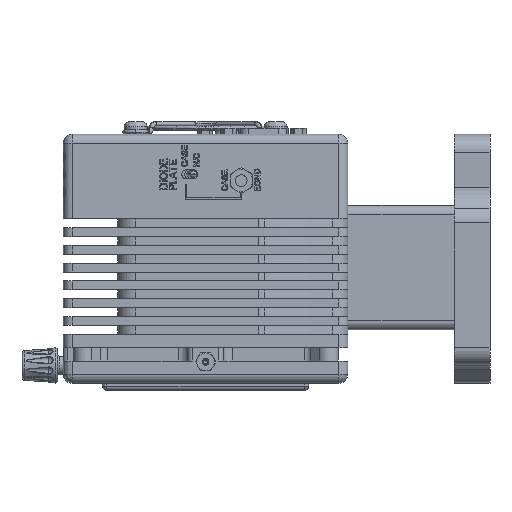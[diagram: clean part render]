
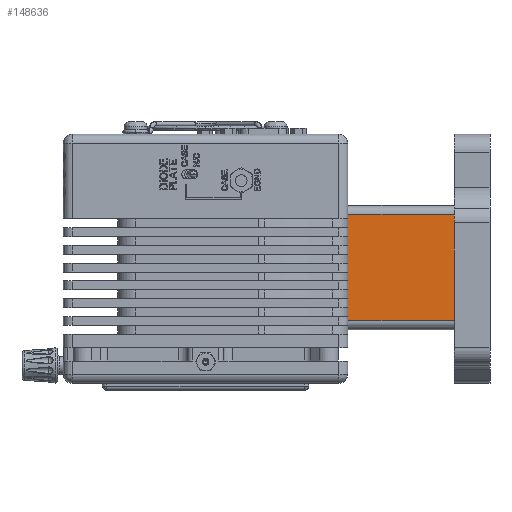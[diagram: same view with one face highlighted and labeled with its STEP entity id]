
A CAD part, left-side view. The second image highlights one B-rep face of the part: STEP entity #148636.
In plain terms, the highlighted planar face has unit normal (-1, 0, 0).
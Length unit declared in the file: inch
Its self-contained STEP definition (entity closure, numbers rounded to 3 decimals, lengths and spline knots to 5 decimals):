
#1355 = CARTESIAN_POINT ( 'NONE',  ( -0.5, -2., 0.875 ) ) ;
#5395 = CARTESIAN_POINT ( 'NONE',  ( -0.5, -3.5, 0.875 ) ) ;
#20813 = DIRECTION ( 'NONE',  ( 0., 0., -1. ) ) ;
#23393 = DIRECTION ( 'NONE',  ( 0., 0., -1. ) ) ;
#24539 = CARTESIAN_POINT ( 'NONE',  ( -0.5, -2., -0.625 ) ) ;
#24705 = VECTOR ( 'NONE', #177935, 39.37008 ) ;
#29438 = LINE ( 'NONE', #70222, #24705 ) ;
#32770 = PLANE ( 'NONE',  #58950 ) ;
#41721 = ORIENTED_EDGE ( 'NONE', *, *, #119735, .T. ) ;
#52216 = CARTESIAN_POINT ( 'NONE',  ( -0.5, -3.5, -0.625 ) ) ;
#53224 = ORIENTED_EDGE ( 'NONE', *, *, #72893, .F. ) ;
#53353 = CARTESIAN_POINT ( 'NONE',  ( -0.5, -2., 0.4375 ) ) ;
#58950 = AXIS2_PLACEMENT_3D ( 'NONE', #5395, #112358, #20813 ) ;
#61058 = EDGE_CURVE ( 'NONE', #167770, #90574, #29438, .T. ) ;
#62139 = LINE ( 'NONE', #174054, #138857 ) ;
#62406 = CARTESIAN_POINT ( 'NONE',  ( -0.5, -3.5, 0.875 ) ) ;
#66995 = DIRECTION ( 'NONE',  ( 0., 1., 0. ) ) ;
#70222 = CARTESIAN_POINT ( 'NONE',  ( -0.5, -2.75, 0.875 ) ) ;
#72893 = EDGE_CURVE ( 'NONE', #90574, #97908, #136608, .T. ) ;
#90574 = VERTEX_POINT ( 'NONE', #62406 ) ;
#95878 = VECTOR ( 'NONE', #181559, 39.37008 ) ;
#97908 = VERTEX_POINT ( 'NONE', #52216 ) ;
#111893 = FACE_OUTER_BOUND ( 'NONE', #176650, .T. ) ;
#112358 = DIRECTION ( 'NONE',  ( 1., 0., 0. ) ) ;
#119735 = EDGE_CURVE ( 'NONE', #167770, #194336, #137272, .T. ) ;
#121047 = EDGE_CURVE ( 'NONE', #97908, #194336, #62139, .T. ) ;
#126913 = ORIENTED_EDGE ( 'NONE', *, *, #121047, .F. ) ;
#136608 = LINE ( 'NONE', #166116, #95878 ) ;
#137272 = LINE ( 'NONE', #53353, #177895 ) ;
#138857 = VECTOR ( 'NONE', #66995, 39.37008 ) ;
#148636 = ADVANCED_FACE ( 'NONE', ( #111893 ), #32770, .F. ) ;
#166116 = CARTESIAN_POINT ( 'NONE',  ( -0.5, -3.5, 0.125 ) ) ;
#167770 = VERTEX_POINT ( 'NONE', #1355 ) ;
#174054 = CARTESIAN_POINT ( 'NONE',  ( -0.5, -2.75, -0.625 ) ) ;
#176650 = EDGE_LOOP ( 'NONE', ( #126913, #53224, #194976, #41721 ) ) ;
#177895 = VECTOR ( 'NONE', #23393, 39.37008 ) ;
#177935 = DIRECTION ( 'NONE',  ( 0., -1., 0. ) ) ;
#181559 = DIRECTION ( 'NONE',  ( 0., 0., -1. ) ) ;
#194336 = VERTEX_POINT ( 'NONE', #24539 ) ;
#194976 = ORIENTED_EDGE ( 'NONE', *, *, #61058, .F. ) ;
